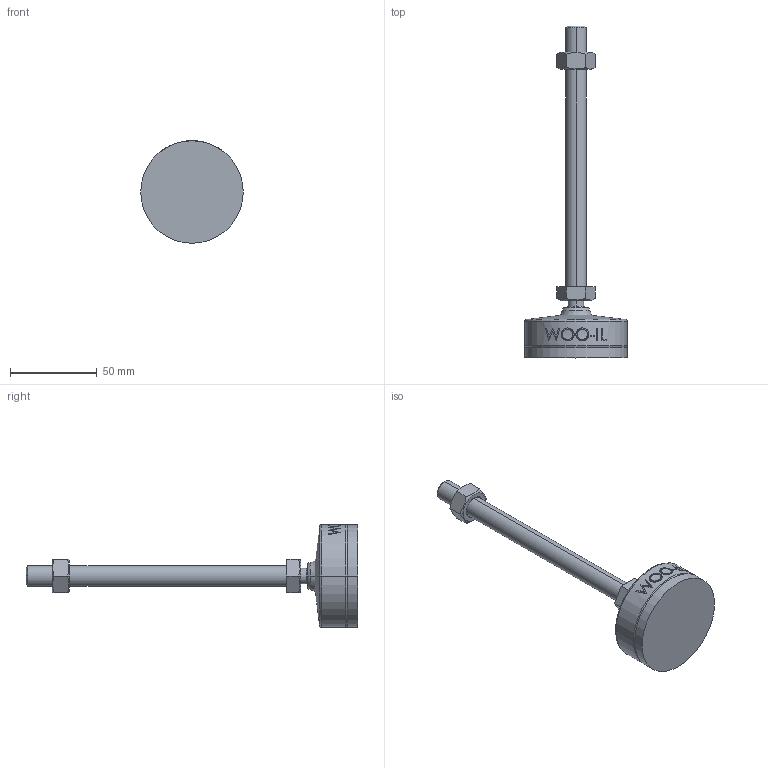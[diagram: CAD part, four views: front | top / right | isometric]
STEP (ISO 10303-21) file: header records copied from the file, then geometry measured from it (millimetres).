
FILE_DESCRIPTION (( 'STEP AP214' ), '1' );
FILE_NAME ('MFNR59-M12-150.step', '2021-02-22T09:06:07', ( '' ), ( '' ), 'SwSTEP 2.0', 'SolidWorks 2019', '' );
FILE_SCHEMA (( 'AUTOMOTIVE_DESIGN' ));
Length unit declared in the file: millimetre
Products named in the file (2): MFNR59-M12-150
Bounding box: 59 x 191 x 59 mm (x, y, z)
Volume: 85829.4 mm3; surface area: 18060.8 mm2
Topology: 2 solids, 2 shells, 105 faces, 245 edges, 156 vertices
Faces by surface type: plane 47, cone 18, cylinder 18, bspline 16, torus 4, sphere 2
Entity records: 4515 total; most frequent: CARTESIAN_POINT 2178, ORIENTED_EDGE 490, DIRECTION 437, EDGE_CURVE 245, AXIS2_PLACEMENT_3D 167, VERTEX_POINT 156, EDGE_LOOP 119, ADVANCED_FACE 105
